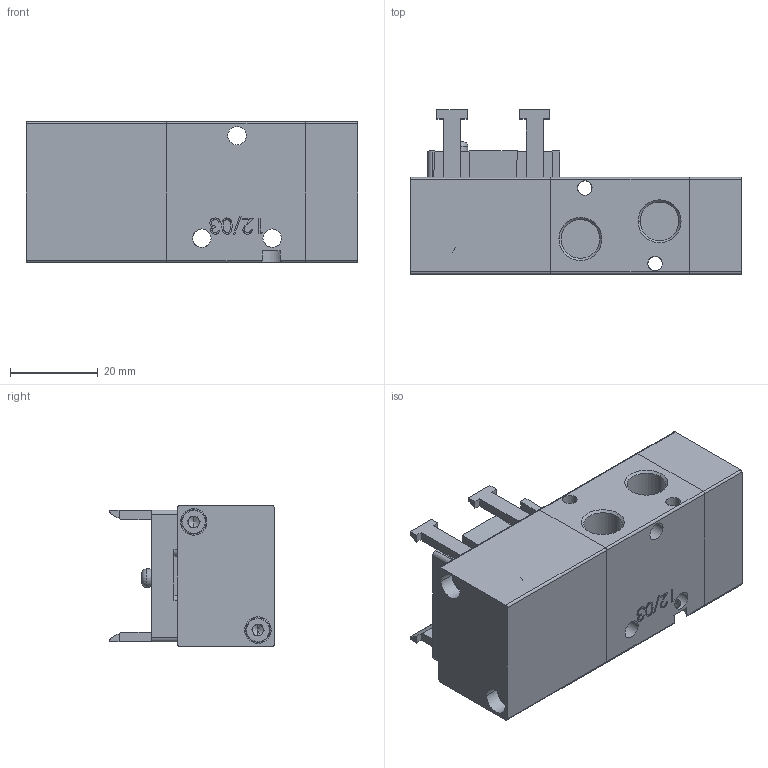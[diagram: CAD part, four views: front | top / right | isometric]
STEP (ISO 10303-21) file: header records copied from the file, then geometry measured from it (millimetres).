
FILE_DESCRIPTION (( 'STEP AP214' ), '1' );
FILE_NAME ('00_041_4.STEP', '2015-12-18T14:44:52', ( '' ), ( '' ), 'SwSTEP 2.0', 'SolidWorks 2015', '' );
FILE_SCHEMA (( 'AUTOMOTIVE_DESIGN' ));
Length unit declared in the file: millimetre
Products named in the file (1): 00_041_4
Bounding box: 75.5 x 37.4 x 32 mm (x, y, z)
Volume: 54693.9 mm3; surface area: 19845.5 mm2
Topology: 13 solids, 13 shells, 512 faces, 1298 edges, 826 vertices
Faces by surface type: plane 282, cylinder 103, bspline 79, cone 46, torus 2
Entity records: 24945 total; most frequent: CARTESIAN_POINT 7288, ORIENTED_EDGE 2556, DIRECTION 2312, EDGE_CURVE 1278, VERTEX_POINT 826, AXIS2_PLACEMENT_3D 774, VECTOR 764, LINE 764
